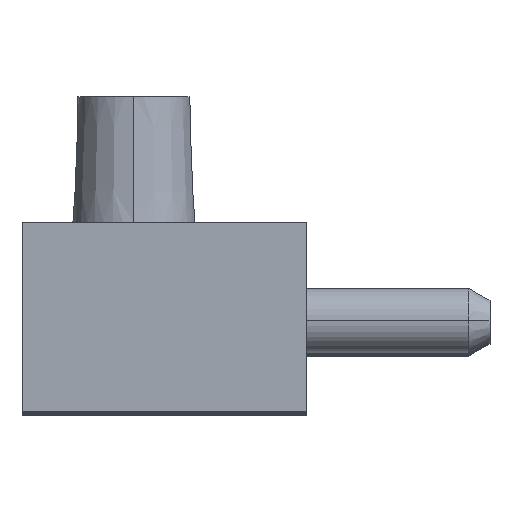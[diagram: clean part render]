
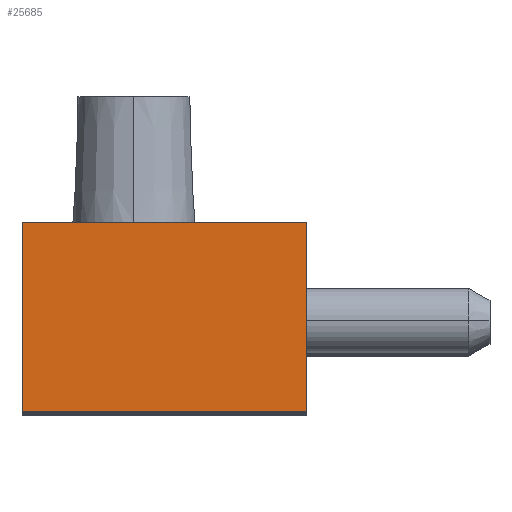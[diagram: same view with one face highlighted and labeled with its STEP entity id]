
A CAD part, top view. The second image highlights one B-rep face of the part: STEP entity #25685.
In plain terms, the highlighted planar face has unit normal (0, 0, 1).
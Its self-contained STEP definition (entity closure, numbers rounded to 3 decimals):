
#5181 = CARTESIAN_POINT ( 'NONE',  ( -7., 0., 0. ) ) ;
#5376 = DIRECTION ( 'NONE',  ( 1., 0., 0. ) ) ;
#5377 = VECTOR ( 'NONE', #5376, 1000. ) ;
#5378 = CARTESIAN_POINT ( 'NONE',  ( 0., 0., 0. ) ) ;
#5379 = LINE ( 'NONE', #5378, #5377 ) ;
#5380 = CARTESIAN_POINT ( 'NONE',  ( 7., 0., 0. ) ) ;
#5550 = FACE_OUTER_BOUND ( 'NONE', #25688, .T. ) ;
#5772 = CARTESIAN_POINT ( 'NONE',  ( 7., 9.3, 0. ) ) ;
#5773 = DIRECTION ( 'NONE',  ( 0., 1., 0. ) ) ;
#5774 = VECTOR ( 'NONE', #5773, 1000. ) ;
#5775 = CARTESIAN_POINT ( 'NONE',  ( 7., 4.65, 0. ) ) ;
#5776 = LINE ( 'NONE', #5775, #5774 ) ;
#5872 = DIRECTION ( 'NONE',  ( 0., -1., 0. ) ) ;
#5873 = VECTOR ( 'NONE', #5872, 1000. ) ;
#5874 = CARTESIAN_POINT ( 'NONE',  ( -7., 4.65, 0. ) ) ;
#5875 = LINE ( 'NONE', #5874, #5873 ) ;
#5876 = CARTESIAN_POINT ( 'NONE',  ( -7., 9.3, 0. ) ) ;
#5877 = DIRECTION ( 'NONE',  ( -1., 0., 0. ) ) ;
#5878 = VECTOR ( 'NONE', #5877, 1000. ) ;
#5879 = CARTESIAN_POINT ( 'NONE',  ( -7., 9.3, 0. ) ) ;
#5880 = LINE ( 'NONE', #5879, #5878 ) ;
#5881 = DIRECTION ( 'NONE',  ( 1., 0., 0. ) ) ;
#5882 = DIRECTION ( 'NONE',  ( 0., 0., 1. ) ) ;
#5883 = CARTESIAN_POINT ( 'NONE',  ( -7., 0., 0. ) ) ;
#5884 = AXIS2_PLACEMENT_3D ( 'NONE', #5883, #5882, #5881 ) ;
#5885 = PLANE ( 'NONE',  #5884 ) ;
#24995 = VERTEX_POINT ( 'NONE', #5181 ) ;
#25115 = VERTEX_POINT ( 'NONE', #5380 ) ;
#25117 = EDGE_CURVE ( 'NONE', #24995, #25115, #5379, .T. ) ;
#25562 = EDGE_CURVE ( 'NONE', #25115, #25564, #5776, .T. ) ;
#25564 = VERTEX_POINT ( 'NONE', #5772 ) ;
#25685 = ADVANCED_FACE ( 'NONE', ( #5550 ), #5885, .T. ) ;
#25688 = EDGE_LOOP ( 'NONE', ( #25690, #25692, #25695, #25698 ) ) ;
#25690 = ORIENTED_EDGE ( 'NONE', *, *, #25562, .T. ) ;
#25692 = ORIENTED_EDGE ( 'NONE', *, *, #25693, .T. ) ;
#25693 = EDGE_CURVE ( 'NONE', #25564, #25694, #5880, .T. ) ;
#25694 = VERTEX_POINT ( 'NONE', #5876 ) ;
#25695 = ORIENTED_EDGE ( 'NONE', *, *, #25696, .T. ) ;
#25696 = EDGE_CURVE ( 'NONE', #25694, #24995, #5875, .T. ) ;
#25698 = ORIENTED_EDGE ( 'NONE', *, *, #25117, .T. ) ;
